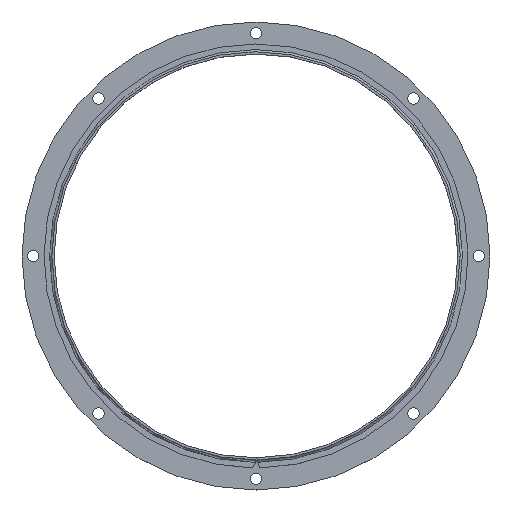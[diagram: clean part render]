
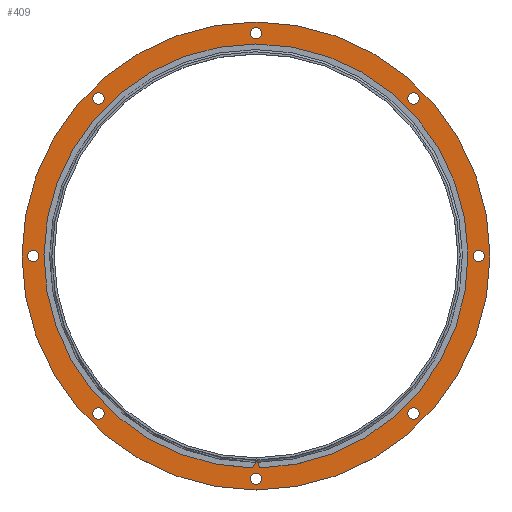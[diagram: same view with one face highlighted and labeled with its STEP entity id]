
A CAD part, top view. The second image highlights one B-rep face of the part: STEP entity #409.
In plain terms, the highlighted planar face has unit normal (0, 0, 1).
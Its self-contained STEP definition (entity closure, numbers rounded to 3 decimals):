
#61=PLANE('',#512);
#80=FACE_BOUND('',#143,.T.);
#81=FACE_BOUND('',#144,.T.);
#82=FACE_BOUND('',#145,.T.);
#83=FACE_BOUND('',#146,.T.);
#84=FACE_BOUND('',#147,.T.);
#85=FACE_BOUND('',#148,.T.);
#86=FACE_BOUND('',#149,.T.);
#87=FACE_BOUND('',#150,.T.);
#88=FACE_BOUND('',#151,.T.);
#108=FACE_OUTER_BOUND('',#142,.T.);
#142=EDGE_LOOP('',(#310));
#143=EDGE_LOOP('',(#311));
#144=EDGE_LOOP('',(#312));
#145=EDGE_LOOP('',(#313));
#146=EDGE_LOOP('',(#314));
#147=EDGE_LOOP('',(#315));
#148=EDGE_LOOP('',(#316));
#149=EDGE_LOOP('',(#317));
#150=EDGE_LOOP('',(#318));
#151=EDGE_LOOP('',(#319));
#174=CIRCLE('',#483,179.5);
#176=CIRCLE('',#486,5.);
#178=CIRCLE('',#489,5.);
#180=CIRCLE('',#492,5.);
#182=CIRCLE('',#495,5.);
#184=CIRCLE('',#498,5.);
#186=CIRCLE('',#501,5.);
#188=CIRCLE('',#504,5.);
#190=CIRCLE('',#507,5.);
#192=CIRCLE('',#510,207.5);
#204=VERTEX_POINT('',#686);
#206=VERTEX_POINT('',#691);
#208=VERTEX_POINT('',#696);
#210=VERTEX_POINT('',#701);
#212=VERTEX_POINT('',#706);
#214=VERTEX_POINT('',#711);
#216=VERTEX_POINT('',#716);
#218=VERTEX_POINT('',#721);
#220=VERTEX_POINT('',#726);
#222=VERTEX_POINT('',#731);
#242=EDGE_CURVE('',#204,#204,#174,.T.);
#244=EDGE_CURVE('',#206,#206,#176,.T.);
#246=EDGE_CURVE('',#208,#208,#178,.T.);
#248=EDGE_CURVE('',#210,#210,#180,.T.);
#250=EDGE_CURVE('',#212,#212,#182,.T.);
#252=EDGE_CURVE('',#214,#214,#184,.T.);
#254=EDGE_CURVE('',#216,#216,#186,.T.);
#256=EDGE_CURVE('',#218,#218,#188,.T.);
#258=EDGE_CURVE('',#220,#220,#190,.T.);
#260=EDGE_CURVE('',#222,#222,#192,.T.);
#310=ORIENTED_EDGE('',*,*,#260,.F.);
#311=ORIENTED_EDGE('',*,*,#242,.T.);
#312=ORIENTED_EDGE('',*,*,#244,.T.);
#313=ORIENTED_EDGE('',*,*,#246,.T.);
#314=ORIENTED_EDGE('',*,*,#248,.T.);
#315=ORIENTED_EDGE('',*,*,#250,.T.);
#316=ORIENTED_EDGE('',*,*,#252,.T.);
#317=ORIENTED_EDGE('',*,*,#254,.T.);
#318=ORIENTED_EDGE('',*,*,#256,.T.);
#319=ORIENTED_EDGE('',*,*,#258,.T.);
#409=ADVANCED_FACE('',(#108,#80,#81,#82,#83,#84,#85,#86,#87,#88),#61,.F.);
#483=AXIS2_PLACEMENT_3D('',#687,#549,#550);
#486=AXIS2_PLACEMENT_3D('',#692,#555,#556);
#489=AXIS2_PLACEMENT_3D('',#697,#561,#562);
#492=AXIS2_PLACEMENT_3D('',#702,#567,#568);
#495=AXIS2_PLACEMENT_3D('',#707,#573,#574);
#498=AXIS2_PLACEMENT_3D('',#712,#579,#580);
#501=AXIS2_PLACEMENT_3D('',#717,#585,#586);
#504=AXIS2_PLACEMENT_3D('',#722,#591,#592);
#507=AXIS2_PLACEMENT_3D('',#727,#597,#598);
#510=AXIS2_PLACEMENT_3D('',#732,#603,#604);
#512=AXIS2_PLACEMENT_3D('',#735,#607,#608);
#549=DIRECTION('center_axis',(0.,0.,-1.));
#550=DIRECTION('ref_axis',(-1.,0.,0.));
#555=DIRECTION('center_axis',(0.,0.,-1.));
#556=DIRECTION('ref_axis',(-1.,0.,0.));
#561=DIRECTION('center_axis',(0.,0.,-1.));
#562=DIRECTION('ref_axis',(-1.,0.,0.));
#567=DIRECTION('center_axis',(0.,0.,-1.));
#568=DIRECTION('ref_axis',(-1.,0.,0.));
#573=DIRECTION('center_axis',(0.,0.,-1.));
#574=DIRECTION('ref_axis',(-1.,0.,0.));
#579=DIRECTION('center_axis',(0.,0.,-1.));
#580=DIRECTION('ref_axis',(-1.,0.,0.));
#585=DIRECTION('center_axis',(0.,0.,-1.));
#586=DIRECTION('ref_axis',(-1.,0.,0.));
#591=DIRECTION('center_axis',(0.,0.,-1.));
#592=DIRECTION('ref_axis',(-1.,0.,0.));
#597=DIRECTION('center_axis',(0.,0.,-1.));
#598=DIRECTION('ref_axis',(-1.,0.,0.));
#603=DIRECTION('center_axis',(0.,0.,-1.));
#604=DIRECTION('ref_axis',(-1.,0.,0.));
#607=DIRECTION('center_axis',(0.,0.,-1.));
#608=DIRECTION('ref_axis',(-1.,0.,0.));
#686=CARTESIAN_POINT('',(179.5,0.,2.));
#687=CARTESIAN_POINT('Origin',(0.,0.,2.));
#691=CARTESIAN_POINT('',(144.654,139.654,2.));
#692=CARTESIAN_POINT('Origin',(139.654,139.654,2.));
#696=CARTESIAN_POINT('',(202.5,0.,2.));
#697=CARTESIAN_POINT('Origin',(197.5,0.,2.));
#701=CARTESIAN_POINT('',(144.654,-139.654,2.));
#702=CARTESIAN_POINT('Origin',(139.654,-139.654,2.));
#706=CARTESIAN_POINT('',(5.,-197.5,2.));
#707=CARTESIAN_POINT('Origin',(0.,-197.5,2.));
#711=CARTESIAN_POINT('',(-134.654,-139.654,2.));
#712=CARTESIAN_POINT('Origin',(-139.654,-139.654,2.));
#716=CARTESIAN_POINT('',(-192.5,0.,2.));
#717=CARTESIAN_POINT('Origin',(-197.5,0.,2.));
#721=CARTESIAN_POINT('',(-134.654,139.654,2.));
#722=CARTESIAN_POINT('Origin',(-139.654,139.654,2.));
#726=CARTESIAN_POINT('',(5.,197.5,2.));
#727=CARTESIAN_POINT('Origin',(0.,197.5,2.));
#731=CARTESIAN_POINT('',(207.5,0.,2.));
#732=CARTESIAN_POINT('Origin',(0.,0.,2.));
#735=CARTESIAN_POINT('Origin',(0.,0.,2.));
